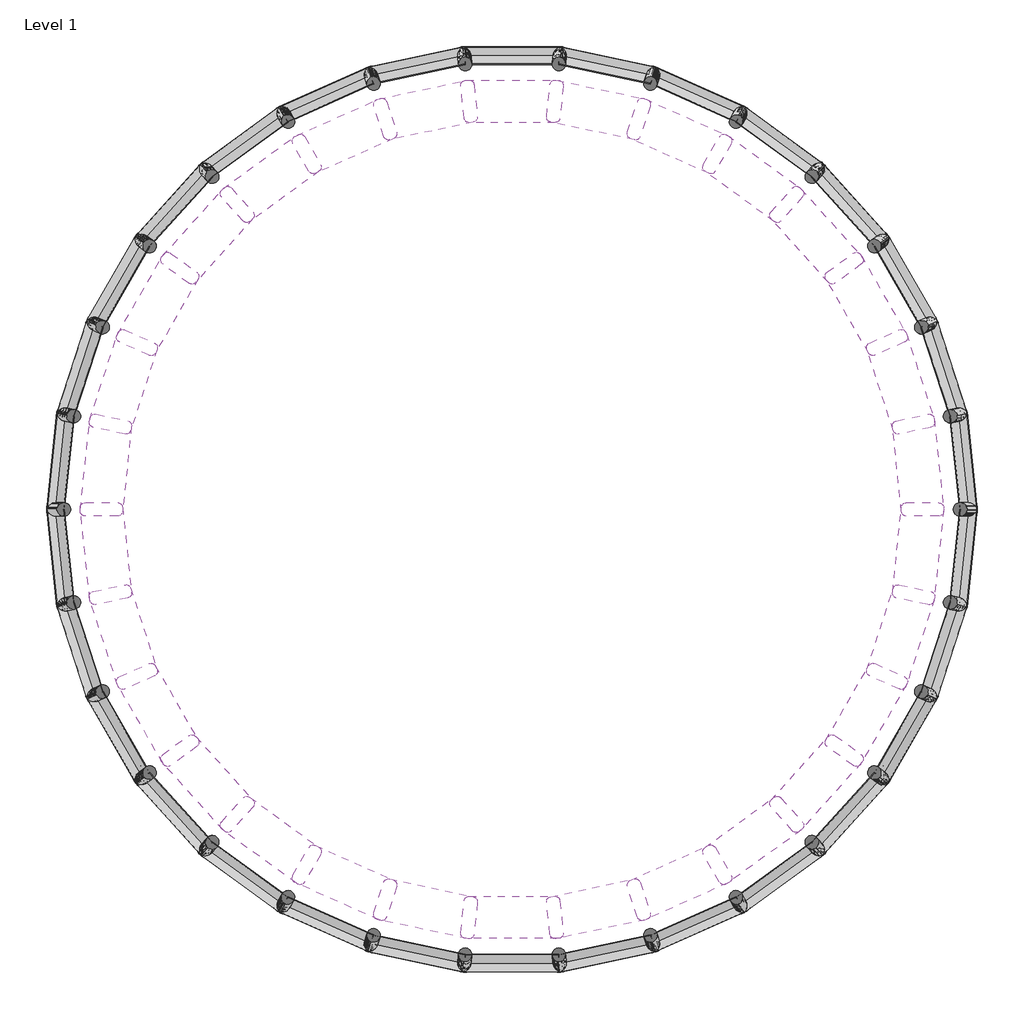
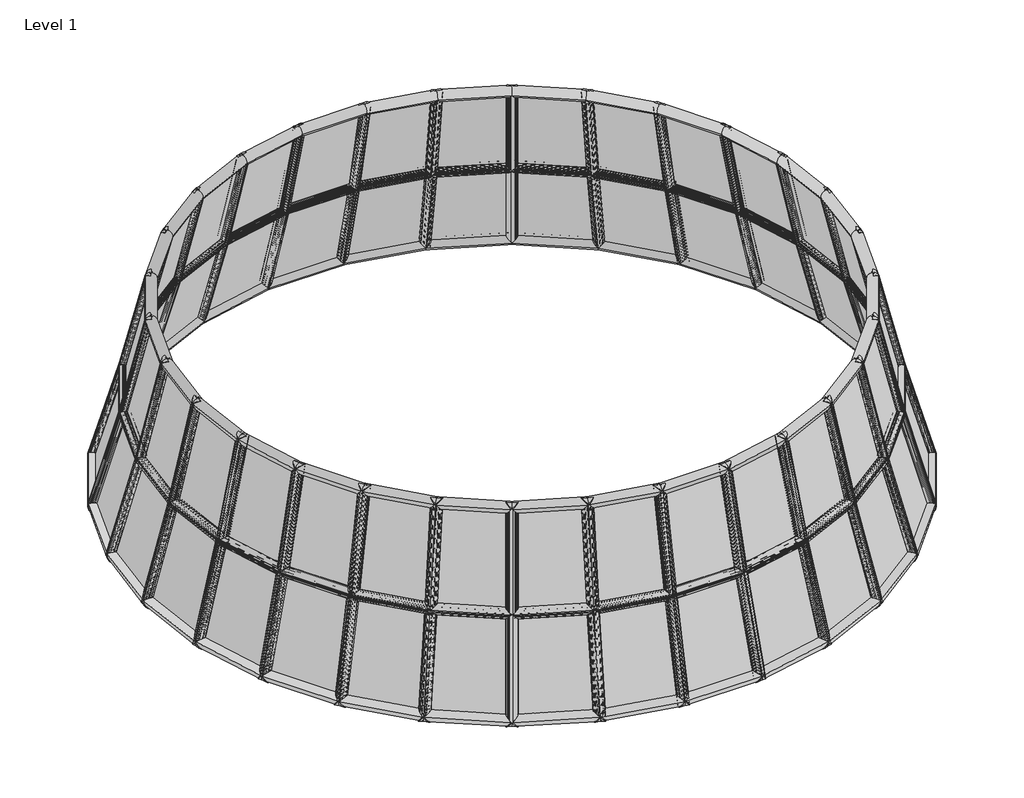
# One storey, incomplete: 60 plates.
"""IFC4 building model written with IfcOpenShell, lengths in millimetres."""

from ifc_helpers import new_model, si_unit, origin, place, context, project, spatial, transform, mapped, element, save
from components import curtainpanel_curtainpanel_4a611b63, curtainpanel_curtainpanel_41c1c35c

model = new_model("IFC4")

# Units and contexts
model_context = context("Model", 3, world=origin())
ifc_project = project(units=[si_unit("LENGTHUNIT", "METRE", prefix="MILLI")], contexts=[model_context])

# Site, building, storey
site = spatial("IfcSite", under=ifc_project)
building = spatial("IfcBuilding", under=site)
storey = spatial("IfcBuildingStorey", under=building, Name="Level 1", Elevation=0.0)

# Plates
placement = place(None, origin())
curtainpanel_curtainpanel_shape = curtainpanel_curtainpanel_4a611b63(model_context)
element("IfcPlate", 1, ObjectType="CurtainPanel : CurtainPanel", at=placement, inside=storey, context=model_context, shape_type="MappedRepresentation", body=[
    mapped(curtainpanel_curtainpanel_shape, transform((12312.3189493, 45.2798935, 11110.2238486), x_axis=(-0.25993728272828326, 0.9467131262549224, -0.19017588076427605), y_axis=(0.27669789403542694, -0.11566141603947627, -0.9539710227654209), z_axis=(-0.9251329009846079, -0.30059390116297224, -0.23188881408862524))),
])
element("IfcPlate", 2, ObjectType="CurtainPanel : CurtainPanel", at=placement, inside=storey, context=model_context, shape_type="MappedRepresentation", body=[
    mapped(curtainpanel_curtainpanel_shape, transform((11087.9926964, 5151.4242441, 11110.2238486), x_axis=(-0.6225274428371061, 0.7591394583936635, -0.19017588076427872), y_axis=(0.2998198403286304, 0.006881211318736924, -0.9539710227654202), z_axis=(-0.7228884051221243, -0.6508916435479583, -0.2318888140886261))),
])
element("IfcPlate", 3, ObjectType="CurtainPanel : CurtainPanel", at=placement, inside=storey, context=model_context, shape_type="MappedRepresentation", body=[
    mapped(curtainpanel_curtainpanel_shape, transform((7892.6589972, 9318.1408716, 11110.2238486), x_axis=(-0.877476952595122, 0.4403036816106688, -0.19017588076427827), y_axis=(0.2711002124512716, 0.12823401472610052, -0.9539710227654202), z_axis=(-0.395649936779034, -0.8886443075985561, -0.231888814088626))),
])
element("IfcPlate", 4, ObjectType="CurtainPanel : CurtainPanel", at=placement, inside=storey, context=model_context, shape_type="MappedRepresentation", body=[
    mapped(curtainpanel_curtainpanel_shape, transform((3278.8200769, 11824.9666175, 11110.2238486), x_axis=(-0.9807027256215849, 0.04533539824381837, -0.19017588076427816), y_axis=(0.1955048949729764, 0.22741399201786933, -0.9539710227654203), z_axis=(0.0, -0.972742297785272, -0.23188881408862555))),
])
element("IfcPlate", 5, ObjectType="CurtainPanel : CurtainPanel", at=placement, inside=storey, context=model_context, shape_type="MappedRepresentation", body=[
    mapped(curtainpanel_curtainpanel_shape, transform((-1955.7493997, 12238.4485368, 11110.2238486), x_axis=(-0.9143560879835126, -0.3574717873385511, -0.19017588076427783), y_axis=(0.08610500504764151, 0.28727202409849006, -0.9539710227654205), z_axis=(0.3956499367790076, -0.888644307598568, -0.23188881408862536))),
])
element("IfcPlate", 6, ObjectType="CurtainPanel : CurtainPanel", at=placement, inside=storey, context=model_context, shape_type="MappedRepresentation", body=[
    mapped(curtainpanel_curtainpanel_shape, transform((-6905.9448155, 10487.091849, 11110.2238486), x_axis=(-0.6899089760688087, -0.6984688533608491, -0.190175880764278), y_axis=(-0.03818322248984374, 0.2974581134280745, -0.9539710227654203), z_axis=(0.7228884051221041, -0.6508916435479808, -0.23188881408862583))),
])
element("IfcPlate", 7, ObjectType="CurtainPanel : CurtainPanel", at=placement, inside=storey, context=model_context, shape_type="MappedRepresentation", body=[
    mapped(curtainpanel_curtainpanel_shape, transform((-10715.8324121, 6873.7220362, 11110.2238486), x_axis=(-0.34617033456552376, -0.918694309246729, -0.19017588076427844), y_axis=(-0.15586922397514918, 0.25621099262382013, -0.9539710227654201), z_axis=(0.9251329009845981, -0.3005939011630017, -0.23188881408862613))),
])
element("IfcPlate", 8, ObjectType="CurtainPanel : CurtainPanel", at=placement, inside=storey, context=model_context, shape_type="MappedRepresentation", body=[
    mapped(curtainpanel_curtainpanel_shape, transform((12104.4392026, -2586.4215808, 11110.2238486), x_axis=(-0.057424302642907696, 0.9800691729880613, -0.19017588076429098), y_axis=(0.24660402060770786, -0.1706626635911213, -0.9539710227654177), z_axis=(-0.967413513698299, -0.10167925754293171, -0.23188881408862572))),
])
element("IfcPlate", 9, ObjectType="CurtainPanel : CurtainPanel", at=placement, inside=storey, context=model_context, shape_type="MappedRepresentation", body=[
    mapped(curtainpanel_curtainpanel_shape, transform((11968.4945214, 2662.6930061, 11110.2238486), x_axis=(-0.4510897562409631, 0.8719811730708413, -0.1901758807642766), y_axis=(0.29469874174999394, -0.0556052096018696, -0.9539710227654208), z_axis=(-0.8424195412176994, -0.486371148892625, -0.2318888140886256))),
])
element("IfcPlate", 10, ObjectType="CurtainPanel : CurtainPanel", at=placement, inside=storey, context=model_context, shape_type="MappedRepresentation", body=[
    mapped(curtainpanel_curtainpanel_shape, transform((9709.2956291, 7402.7041103, 11110.2238486), x_axis=(-0.7667576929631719, 0.6131197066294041, -0.19017588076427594), y_axis=(0.29183737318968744, 0.06906689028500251, -0.9539710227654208), z_axis=(-0.5717635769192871, -0.7869650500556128, -0.231888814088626))),
])
element("IfcPlate", 11, ObjectType="CurtainPanel : CurtainPanel", at=placement, inside=storey, context=model_context, shape_type="MappedRepresentation", body=[
    mapped(curtainpanel_curtainpanel_shape, transform((5717.4785385, 10814.0207502, 11110.2238486), x_axis=(-0.9498462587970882, 0.24824427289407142, -0.19017588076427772), y_axis=(0.23851467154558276, 0.18179669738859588, -0.9539710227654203), z_axis=(-0.2022444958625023, -0.9514855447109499, -0.2318888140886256))),
])
element("IfcPlate", 12, ObjectType="CurtainPanel : CurtainPanel", at=placement, inside=storey, context=model_context, shape_type="MappedRepresentation", body=[
    mapped(curtainpanel_curtainpanel_shape, transform((683.2646891, 12306.795288, 11110.2238486), x_axis=(-0.968697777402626, -0.15955485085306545, -0.19017588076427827), y_axis=(0.14395061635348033, 0.26309220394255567, -0.9539710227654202), z_axis=(0.2022444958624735, -0.951485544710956, -0.23188881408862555))),
])
element("IfcPlate", 13, ObjectType="CurtainPanel : CurtainPanel", at=placement, inside=storey, context=model_context, shape_type="MappedRepresentation", body=[
    mapped(curtainpanel_curtainpanel_shape, transform((-4522.8846103, 11622.9134447, 11110.2238486), x_axis=(-0.8200526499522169, -0.5397654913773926, -0.19017588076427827), y_axis=(0.02449619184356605, 0.2988966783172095, -0.9539710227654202), z_axis=(0.5717635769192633, -0.7869650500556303, -0.23188881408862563))),
])
element("IfcPlate", 14, ObjectType="CurtainPanel : CurtainPanel", at=placement, inside=storey, context=model_context, shape_type="MappedRepresentation", body=[
    mapped(curtainpanel_curtainpanel_shape, transform((-9000.7788493, 8880.6246038, 11110.2238486), x_axis=(-0.5296129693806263, -0.8266457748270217, -0.19017588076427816), y_axis=(-0.09919384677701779, 0.2830192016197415, -0.9539710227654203), z_axis=(0.8424195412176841, -0.4863711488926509, -0.2318888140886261))),
])
element("IfcPlate", 15, ObjectType="CurtainPanel : CurtainPanel", at=placement, inside=storey, context=model_context, shape_type="MappedRepresentation", body=[
    mapped(curtainpanel_curtainpanel_shape, transform((-11976.1494336, 4554.0954188, 11110.2238486), x_axis=(-0.1475983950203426, -0.9705914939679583, -0.19017588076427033), y_axis=(-0.20573236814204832, 0.21820513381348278, -0.9539710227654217), z_axis=(0.9674135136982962, -0.10167925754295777, -0.23188881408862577))),
])
element("IfcPlate", 16, ObjectType="CurtainPanel : CurtainPanel", at=placement, inside=storey, context=model_context, shape_type="MappedRepresentation", body=[
    mapped(curtainpanel_curtainpanel_shape, transform((-12934.5277589, -608.5779089, 11110.2238486), x_axis=(0.2599372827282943, -0.9467131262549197, -0.19017588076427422), y_axis=(-0.276697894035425, 0.11566141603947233, -0.9539710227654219), z_axis=(0.9251329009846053, 0.30059390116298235, -0.23188881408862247))),
])
element("IfcPlate", 17, ObjectType="CurtainPanel : CurtainPanel", at=placement, inside=storey, context=model_context, shape_type="MappedRepresentation", body=[
    mapped(curtainpanel_curtainpanel_shape, transform((-11710.201506, -5714.7222595, 11110.2238486), x_axis=(0.6225274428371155, -0.7591394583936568, -0.190175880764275), y_axis=(-0.2998198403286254, -0.006881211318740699, -0.9539710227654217), z_axis=(0.7228884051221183, 0.6508916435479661, -0.23188881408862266))),
])
element("IfcPlate", 18, ObjectType="CurtainPanel : CurtainPanel", at=placement, inside=storey, context=model_context, shape_type="MappedRepresentation", body=[
    mapped(curtainpanel_curtainpanel_shape, transform((-8514.8678068, -9881.438887, 11110.2238486), x_axis=(0.8774769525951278, -0.44030368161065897, -0.1901758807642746), y_axis=(-0.27110021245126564, -0.12823401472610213, -0.9539710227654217), z_axis=(0.39564993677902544, 0.8886443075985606, -0.23188881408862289))),
])
element("IfcPlate", 19, ObjectType="CurtainPanel : CurtainPanel", at=placement, inside=storey, context=model_context, shape_type="MappedRepresentation", body=[
    mapped(curtainpanel_curtainpanel_shape, transform((-3901.0288865, -12388.264633, 11110.2238486), x_axis=(0.9807027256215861, -0.045335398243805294, -0.19017588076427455), y_axis=(-0.1955048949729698, -0.22741399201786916, -0.9539710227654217), z_axis=(0.0, 0.9727422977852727, -0.23188881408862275))),
])
element("IfcPlate", 20, ObjectType="CurtainPanel : CurtainPanel", at=placement, inside=storey, context=model_context, shape_type="MappedRepresentation", body=[
    mapped(curtainpanel_curtainpanel_shape, transform((1333.5405901, -12801.7465522, 11110.2238486), x_axis=(0.9143560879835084, 0.35747178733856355, -0.19017588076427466), y_axis=(-0.08610500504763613, -0.2872720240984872, -0.9539710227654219), z_axis=(-0.3956499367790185, 0.8886443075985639, -0.2318888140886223))),
])
element("IfcPlate", 21, ObjectType="CurtainPanel : CurtainPanel", at=placement, inside=storey, context=model_context, shape_type="MappedRepresentation", body=[
    mapped(curtainpanel_curtainpanel_shape, transform((6283.7360059, -11050.3898644, 11110.2238486), x_axis=(0.6899089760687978, 0.6984688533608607, -0.190175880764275), y_axis=(0.038183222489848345, -0.2974581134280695, -0.9539710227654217), z_axis=(-0.7228884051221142, 0.6508916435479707, -0.23188881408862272))),
])
element("IfcPlate", 22, ObjectType="CurtainPanel : CurtainPanel", at=placement, inside=storey, context=model_context, shape_type="MappedRepresentation", body=[
    mapped(curtainpanel_curtainpanel_shape, transform((10093.6236025, -7437.0200516, 11110.2238486), x_axis=(0.3461703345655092, 0.9186943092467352, -0.19017588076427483), y_axis=(0.15586922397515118, -0.2562109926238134, -0.9539710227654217), z_axis=(-0.9251329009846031, 0.3005939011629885, -0.2318888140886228))),
])
element("IfcPlate", 23, ObjectType="CurtainPanel : CurtainPanel", at=placement, inside=storey, context=model_context, shape_type="MappedRepresentation", body=[
    mapped(curtainpanel_curtainpanel_shape, transform((-12726.6480123, 2023.1235654, 11110.2238486), x_axis=(0.05742430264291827, -0.9800691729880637, -0.1901758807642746), y_axis=(-0.2466040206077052, 0.17066266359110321, -0.9539710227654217), z_axis=(0.9674135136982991, 0.1016792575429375, -0.2318888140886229))),
])
element("IfcPlate", 24, ObjectType="CurtainPanel : CurtainPanel", at=placement, inside=storey, context=model_context, shape_type="MappedRepresentation", body=[
    mapped(curtainpanel_curtainpanel_shape, transform((-12590.703331, -3225.9910215, 11110.2238486), x_axis=(0.4510897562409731, -0.8719811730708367, -0.1901758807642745), y_axis=(-0.29469874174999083, 0.05560520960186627, -0.9539710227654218), z_axis=(0.842419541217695, 0.4863711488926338, -0.23188881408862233))),
])
element("IfcPlate", 25, ObjectType="CurtainPanel : CurtainPanel", at=placement, inside=storey, context=model_context, shape_type="MappedRepresentation", body=[
    mapped(curtainpanel_curtainpanel_shape, transform((-10331.5044387, -7966.0021257, 11110.2238486), x_axis=(0.7667576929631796, -0.6131197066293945, -0.1901758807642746), y_axis=(-0.29183737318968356, -0.06906689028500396, -0.9539710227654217), z_axis=(0.5717635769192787, 0.7869650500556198, -0.23188881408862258))),
])
element("IfcPlate", 26, ObjectType="CurtainPanel : CurtainPanel", at=placement, inside=storey, context=model_context, shape_type="MappedRepresentation", body=[
    mapped(curtainpanel_curtainpanel_shape, transform((-6339.6873482, -11377.3187657, 11110.2238486), x_axis=(0.9498462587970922, -0.24824427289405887, -0.19017588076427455), y_axis=(-0.23851467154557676, -0.18179669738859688, -0.9539710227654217), z_axis=(0.20224449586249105, 0.951485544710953, -0.23188881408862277))),
])
element("IfcPlate", 27, ObjectType="CurtainPanel : CurtainPanel", at=placement, inside=storey, context=model_context, shape_type="MappedRepresentation", body=[
    mapped(curtainpanel_curtainpanel_shape, transform((-1305.4734987, -12870.0933035, 11110.2238486), x_axis=(0.9686977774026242, 0.15955485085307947, -0.19017588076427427), y_axis=(-0.14395061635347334, -0.26309220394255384, -0.9539710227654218), z_axis=(-0.2022444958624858, 0.9514855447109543, -0.23188881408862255))),
])
element("IfcPlate", 28, ObjectType="CurtainPanel : CurtainPanel", at=placement, inside=storey, context=model_context, shape_type="MappedRepresentation", body=[
    mapped(curtainpanel_curtainpanel_shape, transform((3900.6758007, -12186.2114601, 11110.2238486), x_axis=(0.8200526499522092, 0.539765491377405, -0.19017588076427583), y_axis=(-0.0244961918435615, -0.2988966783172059, -0.9539710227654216), z_axis=(-0.5717635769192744, 0.7869650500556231, -0.23188881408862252))),
])
element("IfcPlate", 29, ObjectType="CurtainPanel : CurtainPanel", at=placement, inside=storey, context=model_context, shape_type="MappedRepresentation", body=[
    mapped(curtainpanel_curtainpanel_shape, transform((8378.5700397, -9443.9226192, 11110.2238486), x_axis=(0.5296129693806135, 0.8266457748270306, -0.19017588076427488), y_axis=(0.09919384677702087, -0.2830192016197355, -0.9539710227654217), z_axis=(-0.8424195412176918, 0.48637114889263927, -0.23188881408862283))),
])
element("IfcPlate", 30, ObjectType="CurtainPanel : CurtainPanel", at=placement, inside=storey, context=model_context, shape_type="MappedRepresentation", body=[
    mapped(curtainpanel_curtainpanel_shape, transform((11353.940624, -5117.3934342, 11110.2238486), x_axis=(0.14759839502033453, 0.9705914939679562, -0.1901758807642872), y_axis=(0.2057323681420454, -0.21820513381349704, -0.9539710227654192), z_axis=(-0.9674135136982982, 0.10167925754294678, -0.23188881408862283))),
])
curtainpanel_curtainpanel_2_shape = curtainpanel_curtainpanel_41c1c35c(model_context)
element("IfcPlate", 31, ObjectType="CurtainPanel : CurtainPanel", at=placement, inside=storey, context=model_context, shape_type="MappedRepresentation", body=[
    mapped(curtainpanel_curtainpanel_2_shape, transform((12965.0475744, -2672.4820723, 7014.5233237), x_axis=(-0.059408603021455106, 0.9858120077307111, -0.156988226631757), y_axis=(0.2816374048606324, -0.13432427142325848, -0.9500722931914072), z_axis=(-0.9576800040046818, -0.10065622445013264, -0.26966151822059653))),
])
element("IfcPlate", 32, ObjectType="CurtainPanel : CurtainPanel", at=placement, inside=storey, context=model_context, shape_type="MappedRepresentation", body=[
    mapped(curtainpanel_curtainpanel_2_shape, transform((12789.7033456, 2934.1137951, 7014.5233237), x_axis=(-0.4552383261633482, 0.876420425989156, -0.15698822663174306), y_axis=(0.31192317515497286, -0.008159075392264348, -0.9500722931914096), z_axis=(-0.8339436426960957, -0.48147758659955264, -0.26966151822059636))),
])
element("IfcPlate", 33, ObjectType="CurtainPanel : CurtainPanel", at=placement, inside=storey, context=model_context, shape_type="MappedRepresentation", body=[
    mapped(curtainpanel_curtainpanel_2_shape, transform((10349.1104396, 7984.6750597, 7014.5233237), x_axis=(-0.7723532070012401, 0.6154877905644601, -0.15698822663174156), y_axis=(0.2882745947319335, 0.1194168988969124, -0.9500722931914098), z_axis=(-0.5660108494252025, -0.779047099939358, -0.269661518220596))),
])
element("IfcPlate", 34, ObjectType="CurtainPanel : CurtainPanel", at=placement, inside=storey, context=model_context, shape_type="MappedRepresentation", body=[
    mapped(curtainpanel_curtainpanel_2_shape, transform((6065.2695421, 11605.9137957, 7014.5233237), x_axis=(-0.9559212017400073, 0.24813172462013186, -0.15698822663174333), y_axis=(0.21478071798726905, 0.22634460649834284, -0.9500722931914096), z_axis=(-0.2002096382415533, -0.9419122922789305, -0.26966151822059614))),
])
element("IfcPlate", 35, ObjectType="CurtainPanel : CurtainPanel", at=placement, inside=storey, context=model_context, shape_type="MappedRepresentation", body=[
    mapped(curtainpanel_curtainpanel_2_shape, transform((678.8956616, 13171.684928, 7014.5233237), x_axis=(-0.9742017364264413, -0.16212857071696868, -0.15698822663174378), y_axis=(0.10414930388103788, 0.2941352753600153, -0.9500722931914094), z_axis=(0.20020963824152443, -0.9419122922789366, -0.2696615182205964))),
])
element("IfcPlate", 36, ObjectType="CurtainPanel : CurtainPanel", at=placement, inside=storey, context=model_context, shape_type="MappedRepresentation", body=[
    mapped(curtainpanel_curtainpanel_2_shape, transform((-4878.6582243, 12411.252403, 7014.5233237), x_axis=(-0.8240339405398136, -0.5443553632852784, -0.1569882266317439), y_axis=(-0.024490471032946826, 0.3110672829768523, -0.9500722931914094), z_axis=(0.5660108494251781, -0.7790470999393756, -0.26966151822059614))),
])
element("IfcPlate", 37, ObjectType="CurtainPanel : CurtainPanel", at=placement, inside=storey, context=model_context, shape_type="MappedRepresentation", body=[
    mapped(curtainpanel_curtainpanel_2_shape, transform((-9646.4405598, 9456.1019128, 7014.5233237), x_axis=(-0.5313831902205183, -0.8324581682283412, -0.15698822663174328), y_axis=(-0.1488956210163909, 0.2742129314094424, -0.9500722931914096), z_axis=(0.8339436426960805, -0.4814775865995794, -0.2696615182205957))),
])
element("IfcPlate", 38, ObjectType="CurtainPanel : CurtainPanel", at=placement, inside=storey, context=model_context, shape_type="MappedRepresentation", body=[
    mapped(curtainpanel_curtainpanel_2_shape, transform((13172.0139455, 140.030572, 7014.5233237), x_axis=(-0.26307222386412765, 0.951917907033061, -0.1569882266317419), y_axis=(0.303410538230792, -0.07283325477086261, -0.9500722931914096), z_axis=(-0.9158247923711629, -0.29756951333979, -0.2696615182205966))),
])
element("IfcPlate", 39, ObjectType="CurtainPanel : CurtainPanel", at=placement, inside=storey, context=model_context, shape_type="MappedRepresentation", body=[
    mapped(curtainpanel_curtainpanel_2_shape, transform((11834.8245823, 5587.6527529, 7014.5233237), x_axis=(-0.6275083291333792, 0.7626191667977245, -0.1569882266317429), y_axis=(0.3068032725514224, 0.05687169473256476, -0.9500722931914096), z_axis=(-0.7156151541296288, -0.6443427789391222, -0.26966151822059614))),
])
element("IfcPlate", 40, ObjectType="CurtainPanel : CurtainPanel", at=placement, inside=storey, context=model_context, shape_type="MappedRepresentation", body=[
    mapped(curtainpanel_curtainpanel_2_shape, transform((8397.4937549, 10020.4193385, 7014.5233237), x_axis=(-0.8834425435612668, 0.44145664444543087, -0.15698822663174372), y_axis=(0.2571469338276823, 0.1767430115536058, -0.9500722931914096), z_axis=(-0.3916691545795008, -0.8797033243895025, -0.2696615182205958))),
])
element("IfcPlate", 41, ObjectType="CurtainPanel : CurtainPanel", at=placement, inside=storey, context=model_context, shape_type="MappedRepresentation", body=[
    mapped(curtainpanel_curtainpanel_2_shape, transform((3454.3671906, 12671.8647156, 7014.5233237), x_axis=(-0.9866215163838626, 0.04396225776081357, -0.15698822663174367), y_axis=(0.16302755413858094, 0.26605385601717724, -0.9500722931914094), z_axis=(0.0, -0.9629551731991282, -0.2696615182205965))),
])
element("IfcPlate", 42, ObjectType="CurtainPanel : CurtainPanel", at=placement, inside=storey, context=model_context, shape_type="MappedRepresentation", body=[
    mapped(curtainpanel_curtainpanel_2_shape, transform((-2139.8436208, 13083.5298911, 7014.5233237), x_axis=(-0.9192046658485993, -0.36113360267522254, -0.15698822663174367), y_axis=(0.040719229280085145, 0.3093615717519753, -0.9500722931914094), z_axis=(0.39166915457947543, -0.8797033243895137, -0.26966151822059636))),
])
element("IfcPlate", 43, ObjectType="CurtainPanel : CurtainPanel", at=placement, inside=storey, context=model_context, shape_type="MappedRepresentation", body=[
    mapped(curtainpanel_curtainpanel_2_shape, transform((-7417.8488082, 11184.2342161, 7014.5233237), x_axis=(-0.6928489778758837, -0.7037861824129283, -0.15698822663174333), y_axis=(-0.08862982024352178, 0.29917786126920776, -0.9500722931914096), z_axis=(0.7156151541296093, -0.6443427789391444, -0.26966151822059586))),
])
element("IfcPlate", 44, ObjectType="CurtainPanel : CurtainPanel", at=placement, inside=storey, context=model_context, shape_type="MappedRepresentation", body=[
    mapped(curtainpanel_curtainpanel_2_shape, transform((-11467.0333255, 7302.3831674, 7014.5233237), x_axis=(-0.34669340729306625, -0.9247477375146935, -0.1569882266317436), y_axis=(-0.20265396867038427, 0.23726358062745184, -0.9500722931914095), z_axis=(0.9158247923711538, -0.29756951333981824, -0.26966151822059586))),
])
element("IfcPlate", 45, ObjectType="CurtainPanel : CurtainPanel", at=placement, inside=storey, context=model_context, shape_type="MappedRepresentation", body=[
    mapped(curtainpanel_curtainpanel_2_shape, transform((-12800.0584653, 4817.2058237, 7014.5233237), x_axis=(-0.14685145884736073, -0.9766213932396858, -0.15698822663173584), y_axis=(-0.24755536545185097, 0.189944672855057, -0.9500722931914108), z_axis=(0.9576800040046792, -0.1006562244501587, -0.26966151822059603))),
])
element("IfcPlate", 46, ObjectType="CurtainPanel : CurtainPanel", at=placement, inside=storey, context=model_context, shape_type="MappedRepresentation", body=[
    mapped(curtainpanel_curtainpanel_2_shape, transform((-13587.256384, 2109.1840569, 7014.5233237), x_axis=(0.0594086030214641, -0.9858120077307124, -0.15698822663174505), y_axis=(-0.28163740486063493, 0.13432427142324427, -0.9500722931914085), z_axis=(0.9576800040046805, 0.10065622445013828, -0.26966151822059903))),
])
element("IfcPlate", 47, ObjectType="CurtainPanel : CurtainPanel", at=placement, inside=storey, context=model_context, shape_type="MappedRepresentation", body=[
    mapped(curtainpanel_curtainpanel_2_shape, transform((-13411.9121552, -3497.4118106, 7014.5233237), x_axis=(0.45523832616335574, -0.8764204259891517, -0.15698822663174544), y_axis=(-0.3119231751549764, 0.008159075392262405, -0.9500722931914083), z_axis=(0.8339436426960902, 0.48147758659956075, -0.269661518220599))),
])
element("IfcPlate", 48, ObjectType="CurtainPanel : CurtainPanel", at=placement, inside=storey, context=model_context, shape_type="MappedRepresentation", body=[
    mapped(curtainpanel_curtainpanel_2_shape, transform((-10971.3192493, -8547.9730751, 7014.5233237), x_axis=(0.7723532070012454, -0.6154877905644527, -0.1569882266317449), y_axis=(-0.28827459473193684, -0.11941689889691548, -0.9500722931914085), z_axis=(0.5660108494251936, 0.7790470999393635, -0.2696615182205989))),
])
element("IfcPlate", 49, ObjectType="CurtainPanel : CurtainPanel", at=placement, inside=storey, context=model_context, shape_type="MappedRepresentation", body=[
    mapped(curtainpanel_curtainpanel_2_shape, transform((-6687.4783517, -12169.2118112, 7014.5233237), x_axis=(0.9559212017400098, -0.2481317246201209, -0.15698822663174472), y_axis=(-0.2147807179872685, -0.22634460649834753, -0.9500722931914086), z_axis=(0.2002096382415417, 0.9419122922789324, -0.2696615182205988))),
])
element("IfcPlate", 50, ObjectType="CurtainPanel : CurtainPanel", at=placement, inside=storey, context=model_context, shape_type="MappedRepresentation", body=[
    mapped(curtainpanel_curtainpanel_2_shape, transform((-1301.1044712, -13734.9829434, 7014.5233237), x_axis=(0.9742017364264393, 0.1621285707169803, -0.15698822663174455), y_axis=(-0.10414930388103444, -0.2941352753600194, -0.9500722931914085), z_axis=(-0.20020963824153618, 0.9419122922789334, -0.2696615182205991))),
])
element("IfcPlate", 51, ObjectType="CurtainPanel : CurtainPanel", at=placement, inside=storey, context=model_context, shape_type="MappedRepresentation", body=[
    mapped(curtainpanel_curtainpanel_2_shape, transform((4256.4494146, -12974.5504185, 7014.5233237), x_axis=(0.8240339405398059, 0.5443553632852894, -0.15698822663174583), y_axis=(0.02449047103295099, -0.31106728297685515, -0.9500722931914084), z_axis=(-0.566010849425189, 0.7790470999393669, -0.26966151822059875))),
])
element("IfcPlate", 52, ObjectType="CurtainPanel : CurtainPanel", at=placement, inside=storey, context=model_context, shape_type="MappedRepresentation", body=[
    mapped(curtainpanel_curtainpanel_2_shape, transform((9024.2317502, -10019.3999282, 7014.5233237), x_axis=(0.5313831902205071, 0.8324581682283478, -0.15698822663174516), y_axis=(0.14889562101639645, -0.27421293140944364, -0.9500722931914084), z_axis=(-0.8339436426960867, 0.48147758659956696, -0.2696615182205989))),
])
element("IfcPlate", 53, ObjectType="CurtainPanel : CurtainPanel", at=placement, inside=storey, context=model_context, shape_type="MappedRepresentation", body=[
    mapped(curtainpanel_curtainpanel_2_shape, transform((-13794.2227551, -703.3285874, 7014.5233237), x_axis=(0.26307222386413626, -0.9519179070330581, -0.15698822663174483), y_axis=(-0.30341053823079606, 0.07283325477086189, -0.9500722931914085), z_axis=(0.915824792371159, 0.29756951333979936, -0.2696615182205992))),
])
element("IfcPlate", 54, ObjectType="CurtainPanel : CurtainPanel", at=placement, inside=storey, context=model_context, shape_type="MappedRepresentation", body=[
    mapped(curtainpanel_curtainpanel_2_shape, transform((-12457.0333919, -6150.9507683, 7014.5233237), x_axis=(0.627508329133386, -0.7626191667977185, -0.15698822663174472), y_axis=(-0.30680327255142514, -0.05687169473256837, -0.9500722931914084), z_axis=(0.7156151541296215, 0.6443427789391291, -0.26966151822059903))),
])
element("IfcPlate", 55, ObjectType="CurtainPanel : CurtainPanel", at=placement, inside=storey, context=model_context, shape_type="MappedRepresentation", body=[
    mapped(curtainpanel_curtainpanel_2_shape, transform((-9019.7025645, -10583.7173539, 7014.5233237), x_axis=(0.8834425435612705, -0.441456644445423, -0.15698822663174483), y_axis=(-0.2571469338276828, -0.1767430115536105, -0.9500722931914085), z_axis=(0.391669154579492, 0.8797033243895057, -0.26966151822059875))),
])
element("IfcPlate", 56, ObjectType="CurtainPanel : CurtainPanel", at=placement, inside=storey, context=model_context, shape_type="MappedRepresentation", body=[
    mapped(curtainpanel_curtainpanel_2_shape, transform((-4076.5760002, -13235.1627311, 7014.5233237), x_axis=(0.9866215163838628, -0.043962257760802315, -0.15698822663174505), y_axis=(-0.1630275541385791, -0.26605385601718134, -0.9500722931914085), z_axis=(0.0, 0.9629551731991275, -0.26966151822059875))),
])
element("IfcPlate", 57, ObjectType="CurtainPanel : CurtainPanel", at=placement, inside=storey, context=model_context, shape_type="MappedRepresentation", body=[
    mapped(curtainpanel_curtainpanel_2_shape, transform((1517.6348112, -13646.8279065, 7014.5233237), x_axis=(0.9192046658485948, 0.3611336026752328, -0.15698822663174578), y_axis=(-0.04071922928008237, -0.30936157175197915, -0.9500722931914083), z_axis=(-0.39166915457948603, 0.8797033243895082, -0.2696615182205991))),
])
element("IfcPlate", 58, ObjectType="CurtainPanel : CurtainPanel", at=placement, inside=storey, context=model_context, shape_type="MappedRepresentation", body=[
    mapped(curtainpanel_curtainpanel_2_shape, transform((6795.6399986, -11747.5322315, 7014.5233237), x_axis=(0.6928489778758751, 0.7037861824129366, -0.1569882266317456), y_axis=(0.08862982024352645, -0.2991778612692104, -0.9500722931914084), z_axis=(-0.7156151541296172, 0.6443427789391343, -0.269661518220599))),
])
element("IfcPlate", 59, ObjectType="CurtainPanel : CurtainPanel", at=placement, inside=storey, context=model_context, shape_type="MappedRepresentation", body=[
    mapped(curtainpanel_curtainpanel_2_shape, transform((10844.8245159, -7865.6811828, 7014.5233237), x_axis=(0.3466934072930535, 0.9247477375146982, -0.15698822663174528), y_axis=(0.2026539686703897, -0.2372635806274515, -0.9500722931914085), z_axis=(-0.9158247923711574, 0.2975695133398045, -0.26966151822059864))),
])
element("IfcPlate", 60, ObjectType="CurtainPanel : CurtainPanel", at=placement, inside=storey, context=model_context, shape_type="MappedRepresentation", body=[
    mapped(curtainpanel_curtainpanel_2_shape, transform((12177.8496557, -5380.5038391, 7014.5233237), x_axis=(0.14685145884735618, 0.976621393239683, -0.1569882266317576), y_axis=(0.24755536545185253, -0.18994467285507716, -0.9500722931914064), z_axis=(-0.9576800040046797, 0.10065622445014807, -0.2696615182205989))),
])

save(model, "model.ifc")
